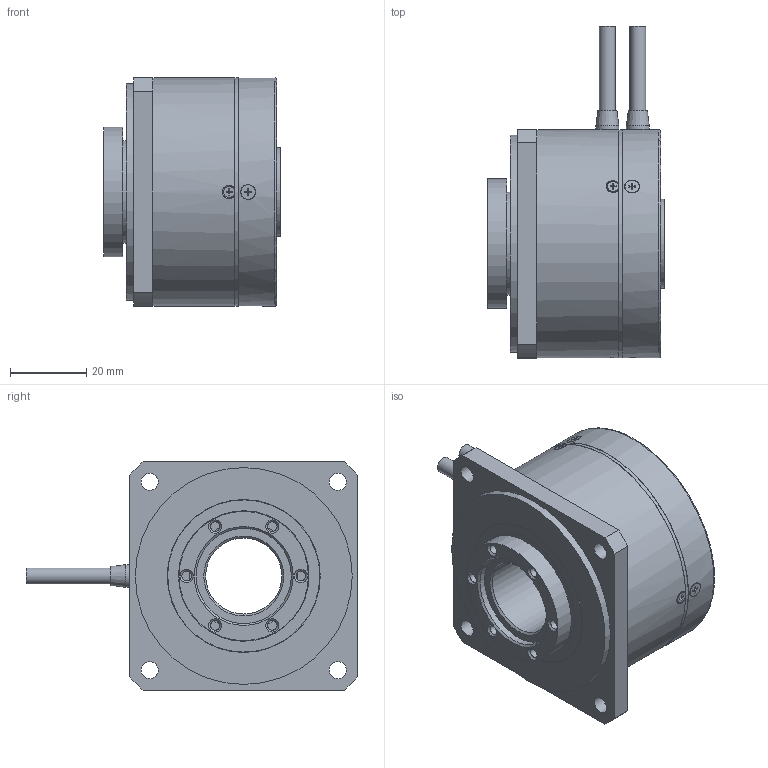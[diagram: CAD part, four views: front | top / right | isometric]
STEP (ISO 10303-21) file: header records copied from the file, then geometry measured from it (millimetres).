
FILE_DESCRIPTION(('STEP AP242'),'1');
FILE_NAME('MDH-60-12.stp','2020-04-17T07:06:33',(' '),(' '),'Spatial InterOp 3D',' ',' ');
FILE_SCHEMA(('AP242_MANAGED_MODEL_BASED_3D_ENGINEERING_MIM_LF {1 0 10303 442 1 1 4}'));
Length unit declared in the file: millimetre
Products named in the file (14): MDH-60-12; 018217; 033279; 018110; 040551; 041976; 041977; 012833; 042520; 041708; 042220; 040051
Assembly tree (23 placements, depth 3):
  MDH-60-12
    018217  x3
    033279  x4
    018110  x3
    040551
    041976
      041976
      041976
    041977
      041976
      041976
    012833
    042520
    041708  x2
    042220
    040051
Bounding box: 46.5 x 87.2 x 60 mm (x, y, z)
Volume: 45871 mm3; surface area: 49249.9 mm2
Topology: 21 solids, 21 shells, 437 faces, 1051 edges, 685 vertices
Faces by surface type: plane 271, cylinder 112, cone 39, torus 12, sphere 3
Full cylindrical faces by diameter (mm): 1.6 x11, 1.7 x3, 2 x10, 2.5 x6, 3 x3, 3.8 x4, 4 x5, 4.2 x2, 4.4 x2, 4.5 x4, 6 x2, 20 x1, 23.35 x2, 23.4 x1, 23.6 x1, 25 x5, 27 x1, 28.4 x4, 33 x2, 34 x1, 34.3 x4, 34.5 x1, 37 x4, 39 x1, 40 x2, 40.2 x2, 55 x1, 56 x1, 57 x1, 58 x1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
Entity records: 11240 total; most frequent: CARTESIAN_POINT 2200, DIRECTION 1295, ORIENTED_EDGE 1026, AXIS2_PLACEMENT_3D 522, EDGE_CURVE 513, EDGE_LOOP 457, VERTEX_POINT 395, FACE_OUTER_BOUND 347
